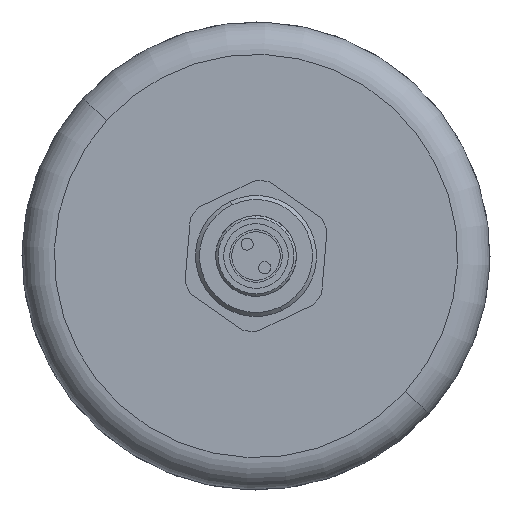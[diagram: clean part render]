
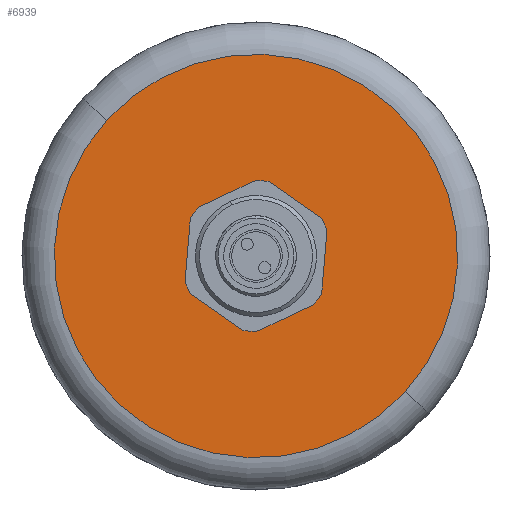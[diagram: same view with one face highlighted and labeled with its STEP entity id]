
A CAD part, left-side view. The second image highlights one B-rep face of the part: STEP entity #6939.
In plain terms, the highlighted planar face has unit normal (-1, 0, 0).
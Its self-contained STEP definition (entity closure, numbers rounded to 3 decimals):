
#65 = EDGE_LOOP ( 'NONE', ( #1715, #5604 ) ) ;
#459 = CARTESIAN_POINT ( 'NONE',  ( -18.95, -18.499, -16.816 ) ) ;
#516 = DIRECTION ( 'NONE',  ( 0., 0.74, 0.673 ) ) ;
#1240 = CARTESIAN_POINT ( 'NONE',  ( -18.95, -5.624, -5.112 ) ) ;
#1357 = EDGE_CURVE ( 'NONE', #7095, #6741, #5999, .T. ) ;
#1444 = FACE_BOUND ( 'NONE', #65, .T. ) ;
#1581 = DIRECTION ( 'NONE',  ( -1., 0., 0. ) ) ;
#1715 = ORIENTED_EDGE ( 'NONE', *, *, #2341, .F. ) ;
#1813 = DIRECTION ( 'NONE',  ( -1., 0., 0. ) ) ;
#1865 = CARTESIAN_POINT ( 'NONE',  ( -18.95, 5.624, 5.112 ) ) ;
#2341 = EDGE_CURVE ( 'NONE', #4639, #5263, #3669, .T. ) ;
#2608 = DIRECTION ( 'NONE',  ( -1., 0., 0. ) ) ;
#2776 = ORIENTED_EDGE ( 'NONE', *, *, #1357, .T. ) ;
#3190 = PLANE ( 'NONE',  #3914 ) ;
#3512 = CIRCLE ( 'NONE', #6759, 25. ) ;
#3669 = CIRCLE ( 'NONE', #6605, 7.6 ) ;
#3761 = DIRECTION ( 'NONE',  ( 0., -0.74, -0.673 ) ) ;
#3914 = AXIS2_PLACEMENT_3D ( 'NONE', #5428, #7149, #3761 ) ;
#3940 = DIRECTION ( 'NONE',  ( -1., 0., 0. ) ) ;
#4223 = FACE_OUTER_BOUND ( 'NONE', #6035, .T. ) ;
#4419 = CIRCLE ( 'NONE', #4858, 7.6 ) ;
#4597 = EDGE_CURVE ( 'NONE', #6741, #7095, #3512, .T. ) ;
#4639 = VERTEX_POINT ( 'NONE', #1865 ) ;
#4858 = AXIS2_PLACEMENT_3D ( 'NONE', #7342, #3940, #516 ) ;
#5001 = CARTESIAN_POINT ( 'NONE',  ( -18.95, 0., 0. ) ) ;
#5115 = EDGE_CURVE ( 'NONE', #5263, #4639, #4419, .T. ) ;
#5233 = CARTESIAN_POINT ( 'NONE',  ( -18.95, 0., 0. ) ) ;
#5263 = VERTEX_POINT ( 'NONE', #1240 ) ;
#5428 = CARTESIAN_POINT ( 'NONE',  ( -18.95, 0., 0. ) ) ;
#5511 = AXIS2_PLACEMENT_3D ( 'NONE', #5001, #1581, #5575 ) ;
#5545 = CARTESIAN_POINT ( 'NONE',  ( -18.95, 18.499, 16.816 ) ) ;
#5575 = DIRECTION ( 'NONE',  ( 0., -0.74, -0.673 ) ) ;
#5604 = ORIENTED_EDGE ( 'NONE', *, *, #5115, .F. ) ;
#5801 = DIRECTION ( 'NONE',  ( 0., -0.74, -0.673 ) ) ;
#5999 = CIRCLE ( 'NONE', #5511, 25. ) ;
#6013 = CARTESIAN_POINT ( 'NONE',  ( -18.95, 0., 0. ) ) ;
#6035 = EDGE_LOOP ( 'NONE', ( #2776, #6047 ) ) ;
#6047 = ORIENTED_EDGE ( 'NONE', *, *, #4597, .T. ) ;
#6587 = DIRECTION ( 'NONE',  ( 0., 0.74, 0.673 ) ) ;
#6605 = AXIS2_PLACEMENT_3D ( 'NONE', #6013, #2608, #6587 ) ;
#6741 = VERTEX_POINT ( 'NONE', #5545 ) ;
#6759 = AXIS2_PLACEMENT_3D ( 'NONE', #5233, #1813, #5801 ) ;
#6939 = ADVANCED_FACE ( 'NONE', ( #1444, #4223 ), #3190, .F. ) ;
#7095 = VERTEX_POINT ( 'NONE', #459 ) ;
#7149 = DIRECTION ( 'NONE',  ( 1., 0., 0. ) ) ;
#7342 = CARTESIAN_POINT ( 'NONE',  ( -18.95, 0., 0. ) ) ;
